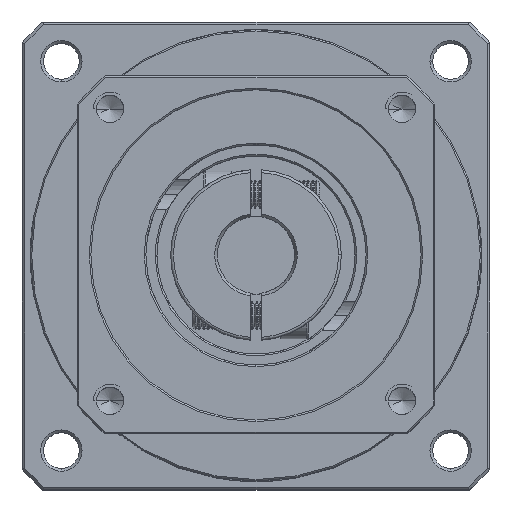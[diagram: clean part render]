
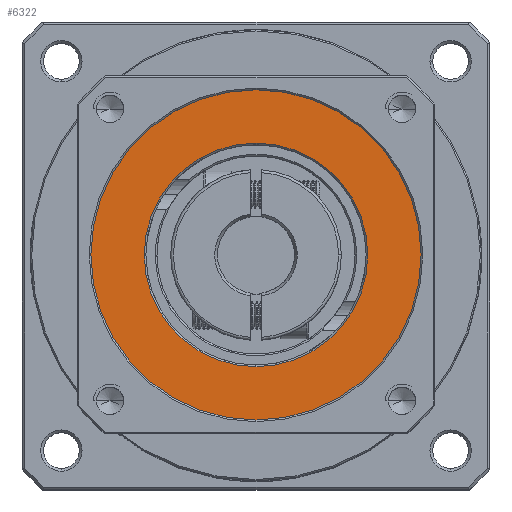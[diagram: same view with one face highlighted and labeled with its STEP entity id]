
A CAD part, top view. The second image highlights one B-rep face of the part: STEP entity #6322.
In plain terms, the highlighted planar face has unit normal (0, 0, 1).
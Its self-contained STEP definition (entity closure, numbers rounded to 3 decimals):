
#6322 = ADVANCED_FACE ( 'NONE', ( #78780, #32257 ), #59551, .T. ) ;
#10222 = EDGE_CURVE ( 'NONE', #42777, #58432, #89704, .T. ) ;
#12315 = ORIENTED_EDGE ( 'NONE', *, *, #10222, .T. ) ;
#21374 = AXIS2_PLACEMENT_3D ( 'NONE', #30340, #95179, #39646 ) ;
#24598 = DIRECTION ( 'NONE',  ( 0., 0., -1. ) ) ;
#25418 = CARTESIAN_POINT ( 'NONE',  ( -70.148, 22.673, 13.877 ) ) ;
#30340 = CARTESIAN_POINT ( 'NONE',  ( -70.148, 22.673, 13.877 ) ) ;
#32257 = FACE_OUTER_BOUND ( 'NONE', #39724, .T. ) ;
#32874 = CARTESIAN_POINT ( 'NONE',  ( -70.148, 22.673, 13.877 ) ) ;
#34731 = DIRECTION ( 'NONE',  ( 1., 0., 0. ) ) ;
#38688 = VERTEX_POINT ( 'NONE', #58352 ) ;
#39646 = DIRECTION ( 'NONE',  ( 1., 0., 0. ) ) ;
#39724 = EDGE_LOOP ( 'NONE', ( #115420, #74107 ) ) ;
#39746 = EDGE_CURVE ( 'NONE', #38688, #43549, #101366, .T. ) ;
#41119 = EDGE_CURVE ( 'NONE', #58432, #42777, #105049, .T. ) ;
#41214 = DIRECTION ( 'NONE',  ( 0., 0., 1. ) ) ;
#42192 = DIRECTION ( 'NONE',  ( 1., 0., 0. ) ) ;
#42777 = VERTEX_POINT ( 'NONE', #105831 ) ;
#43287 = ORIENTED_EDGE ( 'NONE', *, *, #41119, .T. ) ;
#43549 = VERTEX_POINT ( 'NONE', #50470 ) ;
#44540 = CARTESIAN_POINT ( 'NONE',  ( -49.848, 22.673, 13.877 ) ) ;
#50470 = CARTESIAN_POINT ( 'NONE',  ( -40.148, 22.673, 13.877 ) ) ;
#58352 = CARTESIAN_POINT ( 'NONE',  ( -100.148, 22.673, 13.877 ) ) ;
#58432 = VERTEX_POINT ( 'NONE', #44540 ) ;
#59551 = PLANE ( 'NONE',  #60126 ) ;
#60126 = AXIS2_PLACEMENT_3D ( 'NONE', #96758, #41214, #106035 ) ;
#61801 = CIRCLE ( 'NONE', #21374, 30. ) ;
#70563 = EDGE_LOOP ( 'NONE', ( #43287, #12315 ) ) ;
#73775 = EDGE_CURVE ( 'NONE', #43549, #38688, #61801, .T. ) ;
#74107 = ORIENTED_EDGE ( 'NONE', *, *, #39746, .T. ) ;
#78780 = FACE_BOUND ( 'NONE', #70563, .T. ) ;
#80201 = CARTESIAN_POINT ( 'NONE',  ( -70.148, 22.673, 13.877 ) ) ;
#84534 = AXIS2_PLACEMENT_3D ( 'NONE', #32874, #97739, #42192 ) ;
#88492 = AXIS2_PLACEMENT_3D ( 'NONE', #80201, #24598, #89392 ) ;
#89392 = DIRECTION ( 'NONE',  ( 1., 0., 0. ) ) ;
#89704 = CIRCLE ( 'NONE', #92386, 20.3 ) ;
#90245 = DIRECTION ( 'NONE',  ( 0., 0., -1. ) ) ;
#92386 = AXIS2_PLACEMENT_3D ( 'NONE', #25418, #90245, #34731 ) ;
#95179 = DIRECTION ( 'NONE',  ( 0., 0., 1. ) ) ;
#96758 = CARTESIAN_POINT ( 'NONE',  ( -70.148, 22.673, 13.877 ) ) ;
#97739 = DIRECTION ( 'NONE',  ( 0., 0., 1. ) ) ;
#101366 = CIRCLE ( 'NONE', #84534, 30. ) ;
#105049 = CIRCLE ( 'NONE', #88492, 20.3 ) ;
#105831 = CARTESIAN_POINT ( 'NONE',  ( -90.448, 22.673, 13.877 ) ) ;
#106035 = DIRECTION ( 'NONE',  ( 1., 0., 0. ) ) ;
#115420 = ORIENTED_EDGE ( 'NONE', *, *, #73775, .T. ) ;
